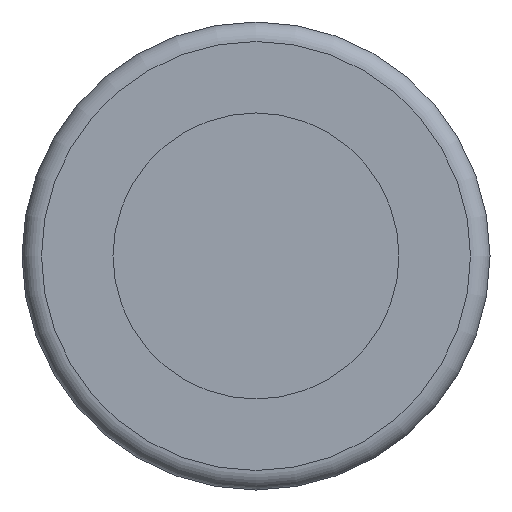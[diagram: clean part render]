
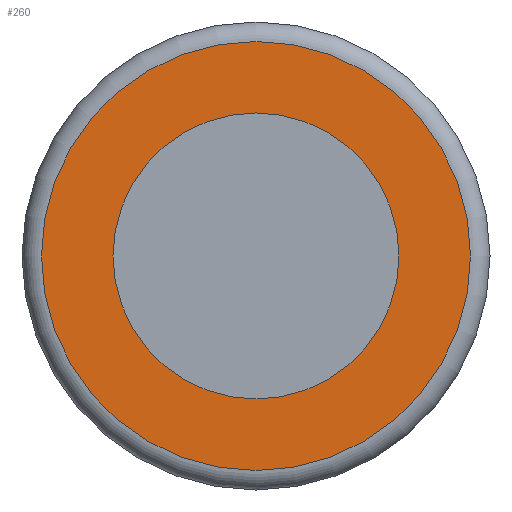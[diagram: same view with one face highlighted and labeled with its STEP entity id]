
A CAD part, left-side view. The second image highlights one B-rep face of the part: STEP entity #260.
In plain terms, the highlighted planar face has unit normal (-1, 0, 0).
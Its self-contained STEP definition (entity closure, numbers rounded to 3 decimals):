
#209=CARTESIAN_POINT('',(120.0,16.5,0.));
#210=VERTEX_POINT('',#209);
#211=CARTESIAN_POINT('',(120.0,0.0,0.0));
#212=DIRECTION('',(1.0,0.0,0.0));
#213=DIRECTION('',(0.0,-1.0,0.0));
#214=AXIS2_PLACEMENT_3D('',#211,#212,#213);
#215=CIRCLE('',#214,16.5);
#216=EDGE_CURVE('',#210,#210,#215,.T.);
#241=CARTESIAN_POINT('',(120.0,0.0,0.0));
#242=DIRECTION('',(-1.0,0.0,0.0));
#243=DIRECTION('',(0.0,0.0,1.0));
#244=AXIS2_PLACEMENT_3D('',#241,#242,#243);
#245=PLANE('',#244);
#246=ORIENTED_EDGE('',*,*,#216,.F.);
#247=EDGE_LOOP('',(#246));
#248=FACE_OUTER_BOUND('',#247,.T.);
#249=CARTESIAN_POINT('',(120.0,11.0,0.));
#250=VERTEX_POINT('',#249);
#251=CARTESIAN_POINT('',(120.0,0.0,0.0));
#252=DIRECTION('',(1.0,0.0,0.0));
#253=DIRECTION('',(0.0,-1.0,0.0));
#254=AXIS2_PLACEMENT_3D('',#251,#252,#253);
#255=CIRCLE('',#254,11.0);
#256=EDGE_CURVE('',#250,#250,#255,.T.);
#257=ORIENTED_EDGE('',*,*,#256,.T.);
#258=EDGE_LOOP('',(#257));
#259=FACE_BOUND('',#258,.T.);
#260=ADVANCED_FACE('',(#248,#259),#245,.T.);
